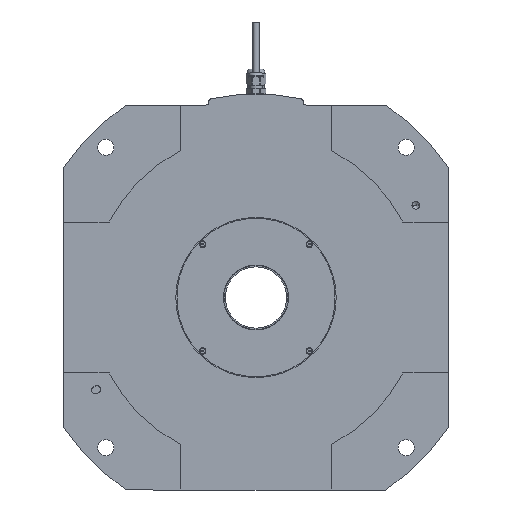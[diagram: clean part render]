
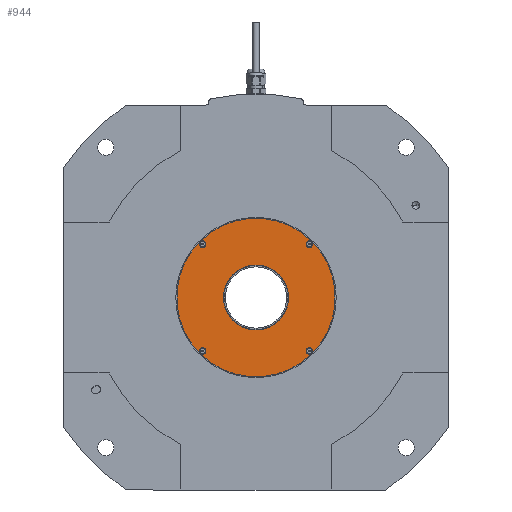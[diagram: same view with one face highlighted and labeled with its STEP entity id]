
A CAD part, front view. The second image highlights one B-rep face of the part: STEP entity #944.
In plain terms, the highlighted planar face has unit normal (0, -1, 0).
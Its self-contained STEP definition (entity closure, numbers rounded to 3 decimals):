
#22 = AXIS2_PLACEMENT_3D ( 'NONE', #28186, #5652, #20639 ) ;
#554 = VERTEX_POINT ( 'NONE', #6955 ) ;
#733 = DIRECTION ( 'NONE',  ( 0.707, 0., 0.707 ) ) ;
#857 = DIRECTION ( 'NONE',  ( 0., 1., 0. ) ) ;
#944 = ADVANCED_FACE ( 'NONE', ( #11192, #16033, #26263, #31127, #31457, #29301 ), #21413, .F. ) ;
#1180 = AXIS2_PLACEMENT_3D ( 'NONE', #20743, #5428, #7645 ) ;
#1217 = EDGE_CURVE ( 'NONE', #6909, #28431, #2659, .T. ) ;
#1270 = AXIS2_PLACEMENT_3D ( 'NONE', #9194, #12041, #1917 ) ;
#1481 = CARTESIAN_POINT ( 'NONE',  ( -55.154, 2., -55.154 ) ) ;
#1519 = DIRECTION ( 'NONE',  ( 0., 1., 0. ) ) ;
#1917 = DIRECTION ( 'NONE',  ( -0.707, 0., 0.707 ) ) ;
#2659 = CIRCLE ( 'NONE', #4279, 2. ) ;
#3160 = CARTESIAN_POINT ( 'NONE',  ( 57.983, 2., -55.154 ) ) ;
#3388 = ORIENTED_EDGE ( 'NONE', *, *, #13639, .T. ) ;
#3721 = CIRCLE ( 'NONE', #24658, 84. ) ;
#3882 = DIRECTION ( 'NONE',  ( 0., 1., 0. ) ) ;
#4200 = CARTESIAN_POINT ( 'NONE',  ( 56.569, 2., 56.569 ) ) ;
#4279 = AXIS2_PLACEMENT_3D ( 'NONE', #4200, #1519, #32252 ) ;
#4320 = CIRCLE ( 'NONE', #17218, 2. ) ;
#4680 = ORIENTED_EDGE ( 'NONE', *, *, #23084, .T. ) ;
#4891 = AXIS2_PLACEMENT_3D ( 'NONE', #17217, #30294, #25267 ) ;
#5428 = DIRECTION ( 'NONE',  ( 0., 1., 0. ) ) ;
#5597 = ORIENTED_EDGE ( 'NONE', *, *, #27345, .T. ) ;
#5652 = DIRECTION ( 'NONE',  ( 0., 1., 0. ) ) ;
#6813 = VERTEX_POINT ( 'NONE', #22114 ) ;
#6909 = VERTEX_POINT ( 'NONE', #31623 ) ;
#6955 = CARTESIAN_POINT ( 'NONE',  ( 55.154, 2., -57.983 ) ) ;
#7397 = VERTEX_POINT ( 'NONE', #26045 ) ;
#7645 = DIRECTION ( 'NONE',  ( 0.707, 0., 0.707 ) ) ;
#8203 = ORIENTED_EDGE ( 'NONE', *, *, #15920, .F. ) ;
#8574 = VERTEX_POINT ( 'NONE', #1481 ) ;
#8695 = CARTESIAN_POINT ( 'NONE',  ( -56.569, 2., 56.569 ) ) ;
#8829 = CARTESIAN_POINT ( 'NONE',  ( 0., 2., 0. ) ) ;
#8985 = EDGE_CURVE ( 'NONE', #554, #32674, #16975, .T. ) ;
#9195 = CIRCLE ( 'NONE', #22, 2. ) ;
#9194 = CARTESIAN_POINT ( 'NONE',  ( 56.569, 2., -56.569 ) ) ;
#9369 = EDGE_LOOP ( 'NONE', ( #24439, #8203 ) ) ;
#9394 = CARTESIAN_POINT ( 'NONE',  ( 0., 2., 0. ) ) ;
#9766 = CIRCLE ( 'NONE', #4891, 34.5 ) ;
#10961 = CARTESIAN_POINT ( 'NONE',  ( -56.569, 2., 56.569 ) ) ;
#10963 = CIRCLE ( 'NONE', #1270, 2. ) ;
#11065 = DIRECTION ( 'NONE',  ( 0.707, 0., 0.707 ) ) ;
#11081 = CIRCLE ( 'NONE', #16956, 2. ) ;
#11192 = FACE_BOUND ( 'NONE', #14933, .T. ) ;
#11589 = DIRECTION ( 'NONE',  ( 0.707, 0., 0.707 ) ) ;
#11645 = CARTESIAN_POINT ( 'NONE',  ( 56.569, 2., -56.569 ) ) ;
#11825 = EDGE_CURVE ( 'NONE', #23559, #24917, #3721, .T. ) ;
#12041 = DIRECTION ( 'NONE',  ( 0., 1., 0. ) ) ;
#13079 = EDGE_CURVE ( 'NONE', #19600, #8574, #9195, .T. ) ;
#13233 = CARTESIAN_POINT ( 'NONE',  ( -55.154, 2., 57.983 ) ) ;
#13639 = EDGE_CURVE ( 'NONE', #24675, #6813, #9766, .T. ) ;
#13709 = CIRCLE ( 'NONE', #17447, 2. ) ;
#13872 = ORIENTED_EDGE ( 'NONE', *, *, #13079, .T. ) ;
#14117 = CIRCLE ( 'NONE', #32841, 34.5 ) ;
#14933 = EDGE_LOOP ( 'NONE', ( #27288, #5597 ) ) ;
#15080 = EDGE_LOOP ( 'NONE', ( #3388, #33083 ) ) ;
#15198 = EDGE_CURVE ( 'NONE', #32674, #554, #10963, .T. ) ;
#15238 = EDGE_LOOP ( 'NONE', ( #32671, #4680 ) ) ;
#15888 = AXIS2_PLACEMENT_3D ( 'NONE', #11645, #3882, #22033 ) ;
#15920 = EDGE_CURVE ( 'NONE', #24917, #23559, #18443, .T. ) ;
#16033 = FACE_BOUND ( 'NONE', #15238, .T. ) ;
#16070 = EDGE_LOOP ( 'NONE', ( #26285, #13872 ) ) ;
#16156 = CARTESIAN_POINT ( 'NONE',  ( 0., 2., 0. ) ) ;
#16350 = AXIS2_PLACEMENT_3D ( 'NONE', #16156, #857, #28579 ) ;
#16411 = EDGE_CURVE ( 'NONE', #31822, #7397, #13709, .T. ) ;
#16474 = DIRECTION ( 'NONE',  ( 0., 1., 0. ) ) ;
#16780 = DIRECTION ( 'NONE',  ( 0., 1., 0. ) ) ;
#16956 = AXIS2_PLACEMENT_3D ( 'NONE', #24497, #32500, #22437 ) ;
#16975 = CIRCLE ( 'NONE', #15888, 2. ) ;
#17141 = AXIS2_PLACEMENT_3D ( 'NONE', #8829, #19056, #733 ) ;
#17217 = CARTESIAN_POINT ( 'NONE',  ( 0., 2., 0. ) ) ;
#17218 = AXIS2_PLACEMENT_3D ( 'NONE', #10961, #16474, #21180 ) ;
#17447 = AXIS2_PLACEMENT_3D ( 'NONE', #8695, #28829, #21452 ) ;
#18443 = CIRCLE ( 'NONE', #16350, 84. ) ;
#19056 = DIRECTION ( 'NONE',  ( 0., 1., 0. ) ) ;
#19600 = VERTEX_POINT ( 'NONE', #30449 ) ;
#20639 = DIRECTION ( 'NONE',  ( 0.707, 0., 0.707 ) ) ;
#20743 = CARTESIAN_POINT ( 'NONE',  ( -56.569, 2., -56.569 ) ) ;
#21180 = DIRECTION ( 'NONE',  ( 0.707, 0., -0.707 ) ) ;
#21413 = PLANE ( 'NONE',  #17141 ) ;
#21452 = DIRECTION ( 'NONE',  ( 0.707, 0., -0.707 ) ) ;
#22033 = DIRECTION ( 'NONE',  ( -0.707, 0., 0.707 ) ) ;
#22114 = CARTESIAN_POINT ( 'NONE',  ( -24.395, 2., -24.395 ) ) ;
#22244 = ORIENTED_EDGE ( 'NONE', *, *, #8985, .T. ) ;
#22437 = DIRECTION ( 'NONE',  ( -0.707, 0., -0.707 ) ) ;
#22636 = CIRCLE ( 'NONE', #1180, 2. ) ;
#22896 = CARTESIAN_POINT ( 'NONE',  ( -59.397, 2., -59.397 ) ) ;
#23084 = EDGE_CURVE ( 'NONE', #28431, #6909, #11081, .T. ) ;
#23559 = VERTEX_POINT ( 'NONE', #22896 ) ;
#24439 = ORIENTED_EDGE ( 'NONE', *, *, #11825, .F. ) ;
#24497 = CARTESIAN_POINT ( 'NONE',  ( 56.569, 2., 56.569 ) ) ;
#24658 = AXIS2_PLACEMENT_3D ( 'NONE', #9394, #16780, #11589 ) ;
#24675 = VERTEX_POINT ( 'NONE', #31945 ) ;
#24917 = VERTEX_POINT ( 'NONE', #31057 ) ;
#25267 = DIRECTION ( 'NONE',  ( 0.707, 0., 0.707 ) ) ;
#26045 = CARTESIAN_POINT ( 'NONE',  ( -57.983, 2., 55.154 ) ) ;
#26263 = FACE_BOUND ( 'NONE', #30934, .T. ) ;
#26285 = ORIENTED_EDGE ( 'NONE', *, *, #32216, .T. ) ;
#26307 = DIRECTION ( 'NONE',  ( 0., 1., 0. ) ) ;
#27288 = ORIENTED_EDGE ( 'NONE', *, *, #16411, .T. ) ;
#27345 = EDGE_CURVE ( 'NONE', #7397, #31822, #4320, .T. ) ;
#27907 = ORIENTED_EDGE ( 'NONE', *, *, #15198, .T. ) ;
#28186 = CARTESIAN_POINT ( 'NONE',  ( -56.569, 2., -56.569 ) ) ;
#28431 = VERTEX_POINT ( 'NONE', #30453 ) ;
#28579 = DIRECTION ( 'NONE',  ( 0.707, 0., 0.707 ) ) ;
#28662 = CARTESIAN_POINT ( 'NONE',  ( 0., 2., 0. ) ) ;
#28829 = DIRECTION ( 'NONE',  ( 0., 1., 0. ) ) ;
#29301 = FACE_OUTER_BOUND ( 'NONE', #9369, .T. ) ;
#30294 = DIRECTION ( 'NONE',  ( 0., 1., 0. ) ) ;
#30449 = CARTESIAN_POINT ( 'NONE',  ( -57.983, 2., -57.983 ) ) ;
#30453 = CARTESIAN_POINT ( 'NONE',  ( 55.154, 2., 55.154 ) ) ;
#30934 = EDGE_LOOP ( 'NONE', ( #27907, #22244 ) ) ;
#31057 = CARTESIAN_POINT ( 'NONE',  ( 59.397, 2., 59.397 ) ) ;
#31127 = FACE_BOUND ( 'NONE', #16070, .T. ) ;
#31457 = FACE_BOUND ( 'NONE', #15080, .T. ) ;
#31623 = CARTESIAN_POINT ( 'NONE',  ( 57.983, 2., 57.983 ) ) ;
#31796 = EDGE_CURVE ( 'NONE', #6813, #24675, #14117, .T. ) ;
#31822 = VERTEX_POINT ( 'NONE', #13233 ) ;
#31945 = CARTESIAN_POINT ( 'NONE',  ( 24.395, 2., 24.395 ) ) ;
#32216 = EDGE_CURVE ( 'NONE', #8574, #19600, #22636, .T. ) ;
#32252 = DIRECTION ( 'NONE',  ( -0.707, 0., -0.707 ) ) ;
#32500 = DIRECTION ( 'NONE',  ( 0., 1., 0. ) ) ;
#32671 = ORIENTED_EDGE ( 'NONE', *, *, #1217, .T. ) ;
#32674 = VERTEX_POINT ( 'NONE', #3160 ) ;
#32841 = AXIS2_PLACEMENT_3D ( 'NONE', #28662, #26307, #11065 ) ;
#33083 = ORIENTED_EDGE ( 'NONE', *, *, #31796, .T. ) ;
